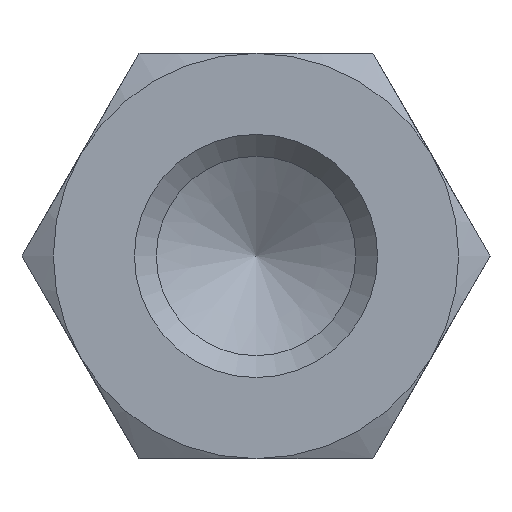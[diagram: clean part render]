
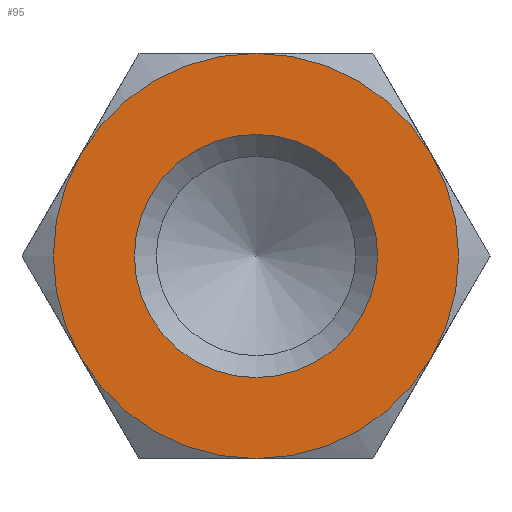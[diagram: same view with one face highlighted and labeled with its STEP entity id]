
A CAD part, left-side view. The second image highlights one B-rep face of the part: STEP entity #95.
In plain terms, the highlighted planar face has unit normal (-1, 0, 0).
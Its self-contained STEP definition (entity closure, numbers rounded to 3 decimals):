
#95 = ADVANCED_FACE( '', ( #147, #148 ), #149, .F. );
#147 = FACE_OUTER_BOUND( '', #206, .T. );
#148 = FACE_BOUND( '', #207, .T. );
#149 = PLANE( '', #208 );
#206 = EDGE_LOOP( '', ( #356, #357, #358, #359, #360, #361 ) );
#207 = EDGE_LOOP( '', ( #362 ) );
#208 = AXIS2_PLACEMENT_3D( '', #363, #364, #365 );
#356 = ORIENTED_EDGE( '', *, *, #440, .F. );
#357 = ORIENTED_EDGE( '', *, *, #425, .F. );
#358 = ORIENTED_EDGE( '', *, *, #441, .F. );
#359 = ORIENTED_EDGE( '', *, *, #437, .F. );
#360 = ORIENTED_EDGE( '', *, *, #442, .F. );
#361 = ORIENTED_EDGE( '', *, *, #443, .F. );
#362 = ORIENTED_EDGE( '', *, *, #439, .T. );
#363 = CARTESIAN_POINT( '', ( -60., 0., 0. ) );
#364 = DIRECTION( '', ( 1., 0., 0. ) );
#365 = DIRECTION( '', ( 0., 0., -1. ) );
#425 = EDGE_CURVE( '', #495, #493, #497, .T. );
#437 = EDGE_CURVE( '', #447, #506, #513, .T. );
#439 = EDGE_CURVE( '', #516, #516, #517, .T. );
#440 = EDGE_CURVE( '', #493, #486, #518, .T. );
#441 = EDGE_CURVE( '', #506, #495, #519, .T. );
#442 = EDGE_CURVE( '', #481, #447, #520, .T. );
#443 = EDGE_CURVE( '', #486, #481, #521, .T. );
#447 = VERTEX_POINT( '', #525 );
#481 = VERTEX_POINT( '', #601 );
#486 = VERTEX_POINT( '', #617 );
#493 = VERTEX_POINT( '', #642 );
#495 = VERTEX_POINT( '', #647 );
#497 = CIRCLE( '', #654, 5. );
#506 = VERTEX_POINT( '', #680 );
#513 = CIRCLE( '', #717, 5. );
#516 = VERTEX_POINT( '', #720 );
#517 = CIRCLE( '', #721, 3. );
#518 = CIRCLE( '', #722, 5. );
#519 = CIRCLE( '', #723, 5. );
#520 = CIRCLE( '', #724, 5. );
#521 = CIRCLE( '', #725, 5. );
#525 = CARTESIAN_POINT( '', ( -60., -4.33, 2.5 ) );
#601 = CARTESIAN_POINT( '', ( -60., 0., 5. ) );
#617 = CARTESIAN_POINT( '', ( -60., 4.33, 2.5 ) );
#642 = CARTESIAN_POINT( '', ( -60., 4.33, -2.5 ) );
#647 = CARTESIAN_POINT( '', ( -60., 0., -5. ) );
#654 = AXIS2_PLACEMENT_3D( '', #760, #761, #762 );
#680 = CARTESIAN_POINT( '', ( -60., -4.33, -2.5 ) );
#717 = AXIS2_PLACEMENT_3D( '', #765, #766, #767 );
#720 = CARTESIAN_POINT( '', ( -60., 0., -3. ) );
#721 = AXIS2_PLACEMENT_3D( '', #771, #772, #773 );
#722 = AXIS2_PLACEMENT_3D( '', #774, #775, #776 );
#723 = AXIS2_PLACEMENT_3D( '', #777, #778, #779 );
#724 = AXIS2_PLACEMENT_3D( '', #780, #781, #782 );
#725 = AXIS2_PLACEMENT_3D( '', #783, #784, #785 );
#760 = CARTESIAN_POINT( '', ( -60., 0., 0. ) );
#761 = DIRECTION( '', ( 1., 0., 0. ) );
#762 = DIRECTION( '', ( 0., 0., -1. ) );
#765 = CARTESIAN_POINT( '', ( -60., 0., 0. ) );
#766 = DIRECTION( '', ( 1., 0., 0. ) );
#767 = DIRECTION( '', ( 0., 0., -1. ) );
#771 = CARTESIAN_POINT( '', ( -60., 0., 0. ) );
#772 = DIRECTION( '', ( 1., 0., 0. ) );
#773 = DIRECTION( '', ( 0., 0., -1. ) );
#774 = CARTESIAN_POINT( '', ( -60., 0., 0. ) );
#775 = DIRECTION( '', ( 1., 0., 0. ) );
#776 = DIRECTION( '', ( 0., 0., -1. ) );
#777 = CARTESIAN_POINT( '', ( -60., 0., 0. ) );
#778 = DIRECTION( '', ( 1., 0., 0. ) );
#779 = DIRECTION( '', ( 0., 0., -1. ) );
#780 = CARTESIAN_POINT( '', ( -60., 0., 0. ) );
#781 = DIRECTION( '', ( 1., 0., 0. ) );
#782 = DIRECTION( '', ( 0., 0., -1. ) );
#783 = CARTESIAN_POINT( '', ( -60., 0., 0. ) );
#784 = DIRECTION( '', ( 1., 0., 0. ) );
#785 = DIRECTION( '', ( 0., 0., -1. ) );
